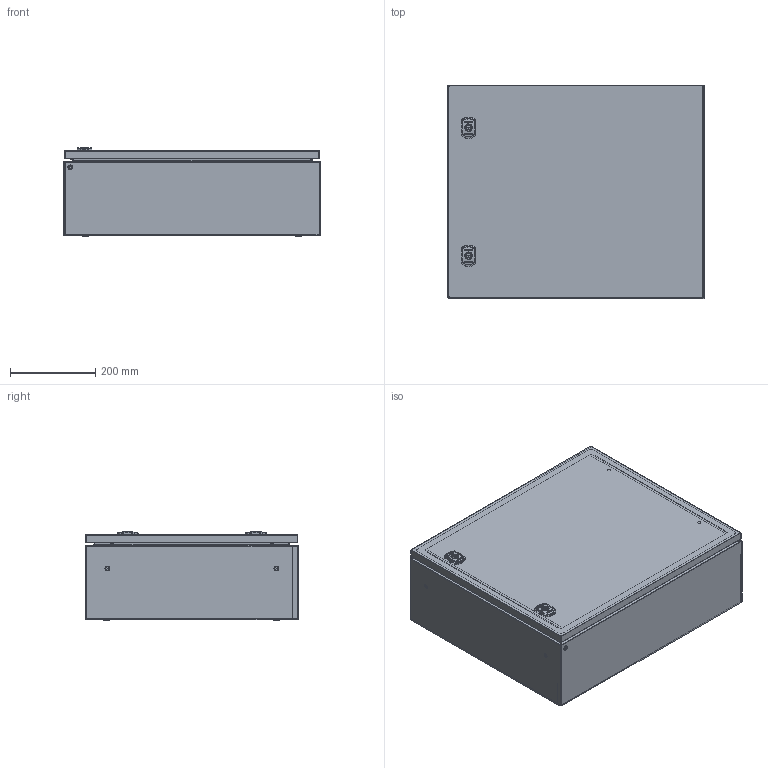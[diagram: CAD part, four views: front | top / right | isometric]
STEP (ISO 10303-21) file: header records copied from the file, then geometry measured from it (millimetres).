
FILE_DESCRIPTION(('Open CASCADE Model'),'2;1');
FILE_NAME('Open CASCADE Shape Model','2025-01-21T00:05:25',('Author'),( 'Open CASCADE'),'Open CASCADE STEP processor 7.8','Open CASCADE 7.8' ,'Unknown');
FILE_SCHEMA(('AUTOMOTIVE_DESIGN { 1 0 10303 214 1 1 1 1 }'));
Length unit declared in the file: millimetre
Products named in the file (29): Compound1; Compound2; Compound3; Compound4; Solid1; Solid2; Solid3; Solid4; Compound5; Solid5; Solid6; Solid7; Solid8; Compound6; Compound7; Solid9; Solid10; Solid11; Solid12; Compound8; Solid13; Solid14; Solid15; Solid16; Solid17; Solid18; Solid19; Solid20; Solid21
Assembly tree (51 placements, depth 5):
  Compound1
    Compound2
      Compound3
        Compound4
          Solid1
          Solid2
          Solid3  x4
          Solid4  x4
        Compound5  x2
          Solid5
        Solid6  x2
        Solid7  x2
        Solid8  x2
      Compound6
        Compound7
          Solid9
          Solid10  x2
          Solid11  x2
        Solid12
        Compound8  x2
          Solid13
          Solid14
          Solid15
          Solid16
          Solid17
      Solid18  x4
      Solid19
      Solid20  x4
    Solid21  x5
Bounding box: 600 x 501 x 208.01 mm (x, y, z)
Volume: 2197850.2 mm3; surface area: 2962054.9 mm2
Topology: 48 solids, 48 shells, 4036 faces, 10284 edges, 6494 vertices
Faces by surface type: plane 1793, cylinder 1230, bspline 511, torus 274, cone 164, sphere 56, revolution 8
Full cylindrical faces by diameter (mm): 4 x28, 5.5 x4, 8 x5
Entity records: 145942 total; most frequent: CARTESIAN_POINT 85235, ORIENTED_EDGE 12948, DIRECTION 11805, EDGE_CURVE 6474, VERTEX_POINT 4128, AXIS2_PLACEMENT_3D 3937, LINE 3927, VECTOR 3927
